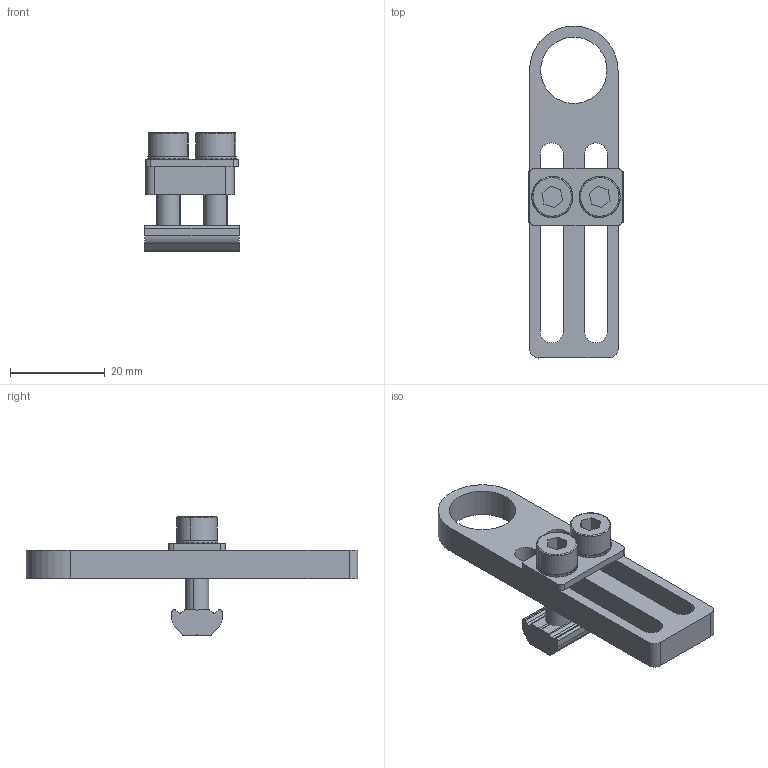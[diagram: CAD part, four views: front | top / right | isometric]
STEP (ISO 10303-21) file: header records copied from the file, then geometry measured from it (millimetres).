
FILE_DESCRIPTION (( 'STEP AP214' ), '1' );
FILE_NAME ('SMBE5-M1640.STEP', '2019-11-06T01:37:34', ( '微软用户' ), ( '微软中国' ), 'SwSTEP 2.0', 'SolidWorks 2016', '' );
FILE_SCHEMA (( 'AUTOMOTIVE_DESIGN' ));
Length unit declared in the file: millimetre
Products named in the file (1): SMBE5-M1640
Bounding box: 20 x 70 x 25 mm (x, y, z)
Volume: 6697.3 mm3; surface area: 6511.1 mm2
Topology: 7 solids, 7 shells, 511 faces, 1482 edges, 981 vertices
Faces by surface type: plane 447, cylinder 56, cone 4, bspline 4
Entity records: 23016 total; most frequent: CARTESIAN_POINT 3437, ORIENTED_EDGE 2964, DIRECTION 2937, EDGE_CURVE 1482, AXIS2_PLACEMENT_3D 987, VERTEX_POINT 981, LINE 963, VECTOR 963
